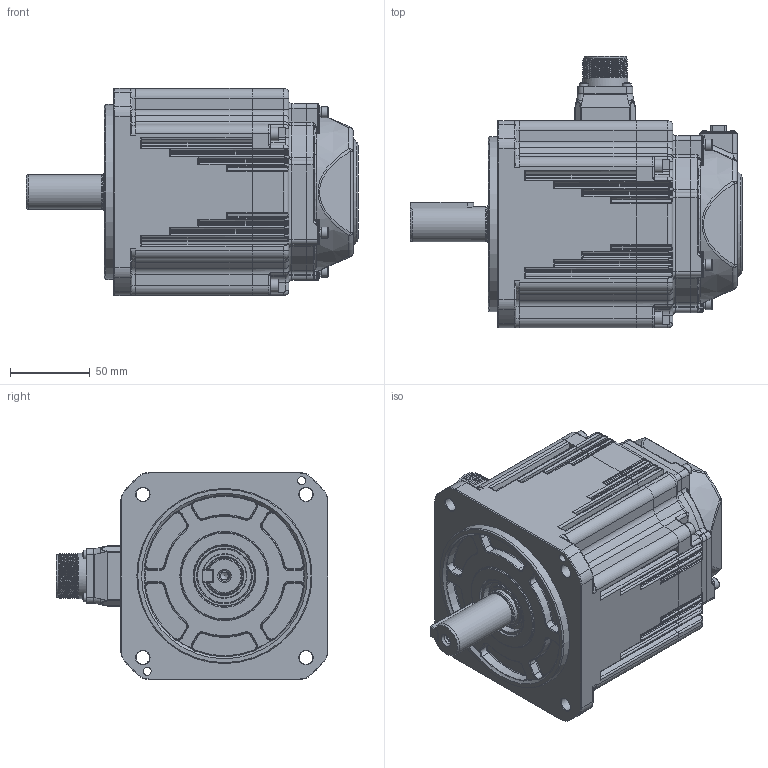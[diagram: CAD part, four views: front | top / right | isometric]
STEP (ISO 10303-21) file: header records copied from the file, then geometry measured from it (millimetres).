
FILE_DESCRIPTION (( 'STEP AP203' ), '1' );
FILE_NAME ('俋倛芞ACM1M-1309B.STEP', '2023-01-10T02:26:55', ( '' ), ( '' ), 'SwSTEP 2.0', 'SolidWorks 2021', '' );
FILE_SCHEMA (( 'CONFIG_CONTROL_DESIGN' ));
Length unit declared in the file: millimetre
Products named in the file (13): 晤鎢裔蹟隊; 130晤鎢ん裔1M; 130价陬綴傷裔 詢39.3 ADC12 LM RoHS_傖こ; 130前端盖0.85、1.3、1.8_成品-0.85; 航插动力接插件 4芯 SZ RoHS_6芯; 萇埭脣釱蹟隊_M3℅10; C型平键8×7×45螺纹拆卸型; 130瑤脣假蚾釱; 130蛌粣09-XX 粣扥耳22 40Cr DC RoHS_LX晤鎢ん; 俋倛芞ACM1M-1309B; ﾓﾍｷ筌ｻTC｣ｻ24｡ﾁ38｡ﾁ7｣ｻSOG; 綴傷裔蹟隊_M5℅20; 1M晤鎢脣釱+蹟隊
Assembly tree (21 placements, depth 2):
  俋倛芞ACM1M-1309B
    130前端盖0.85、1.3、1.8_成品-0.85
    130蛌粣09-XX 粣扥耳22 40Cr DC RoHS_LX晤鎢ん
    130价陬綴傷裔 詢39.3 ADC12 LM RoHS_傖こ
    130晤鎢ん裔1M
    綴傷裔蹟隊_M5℅20  x4
    晤鎢裔蹟隊  x4
    130瑤脣假蚾釱
    1M晤鎢脣釱+蹟隊
    航插动力接插件 4芯 SZ RoHS_6芯
    萇埭脣釱蹟隊_M3℅10  x4
    ﾓﾍｷ筌ｻTC｣ｻ24｡ﾁ38｡ﾁ7｣ｻSOG
    C型平键8×7×45螺纹拆卸型
Bounding box: 208.5 x 170.7 x 130 mm (x, y, z)
Volume: 2136665.6 mm3; surface area: 205285.1 mm2
Topology: 33 solids, 45 shells, 3415 faces, 8737 edges, 5409 vertices
Faces by surface type: plane 1473, cylinder 973, torus 463, bspline 412, cone 83, sphere 11
Full cylindrical faces by diameter (mm): 1.5 x6, 1.6 x10, 1.68 x2, 2.2 x1, 2.4 x4, 2.48 x4, 2.5 x4, 2.598 x4, 2.6 x1, 2.8 x4, 3 x4, 3.2 x6, 3.3 x5, 3.5 x4, 3.9 x4, 4 x4, 4.2 x4, 4.5 x8, 5 x7, 5.5 x4, 5.6 x4, 6.4 x1, 7 x4, 8.5 x8, 9 x4, 21.7 x1, 22 x1, 23.7 x1, 24 x1, 26.5 x1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
Entity records: 129273 total; most frequent: CARTESIAN_POINT 54043, ORIENTED_EDGE 15710, DIRECTION 14671, EDGE_CURVE 7855, AXIS2_PLACEMENT_3D 5350, VERTEX_POINT 5028, LINE 3971, VECTOR 3971
